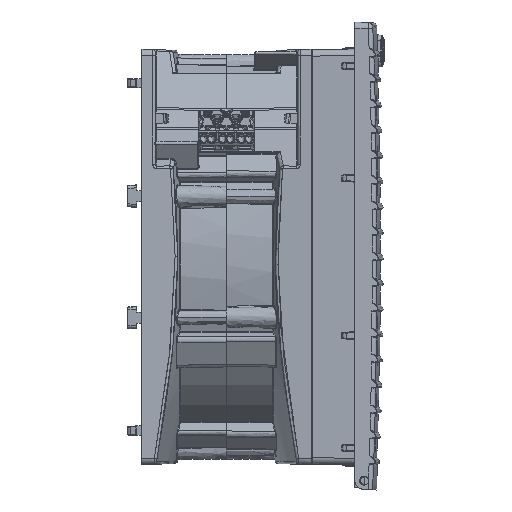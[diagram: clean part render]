
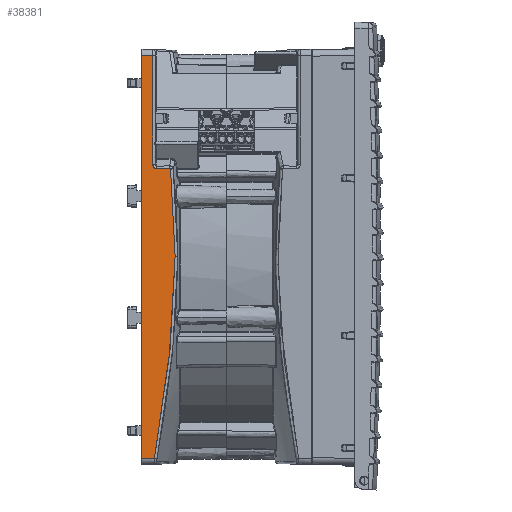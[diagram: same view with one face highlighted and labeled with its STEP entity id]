
A CAD part, left-side view. The second image highlights one B-rep face of the part: STEP entity #38381.
In plain terms, the highlighted planar face has unit normal (-0.999, -0.035, 0).
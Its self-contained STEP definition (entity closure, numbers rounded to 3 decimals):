
#38381=ADVANCED_FACE('',(#43178),#128961,.T.);
#43178=FACE_OUTER_BOUND('',#48071,.T.);
#48071=EDGE_LOOP('',(#70392,#70393,#70394,#70395,#70396,#70397,#70398,#70399,
#70400));
#70392=ORIENTED_EDGE('',*,*,#90204,.T.);
#70393=ORIENTED_EDGE('',*,*,#90205,.T.);
#70394=ORIENTED_EDGE('',*,*,#90206,.T.);
#70395=ORIENTED_EDGE('',*,*,#90207,.T.);
#70396=ORIENTED_EDGE('',*,*,#90208,.T.);
#70397=ORIENTED_EDGE('',*,*,#90209,.T.);
#70398=ORIENTED_EDGE('',*,*,#90210,.T.);
#70399=ORIENTED_EDGE('',*,*,#90211,.T.);
#70400=ORIENTED_EDGE('',*,*,#90212,.T.);
#90204=EDGE_CURVE('',#125588,#125589,#107800,.T.);
#90205=EDGE_CURVE('',#125589,#125590,#107801,.T.);
#90206=EDGE_CURVE('',#125590,#125591,#107802,.T.);
#90207=EDGE_CURVE('',#125591,#125592,#107803,.T.);
#90208=EDGE_CURVE('',#125592,#125593,#107804,.T.);
#90209=EDGE_CURVE('',#125593,#125594,#107805,.T.);
#90210=EDGE_CURVE('',#125594,#125595,#107806,.T.);
#90211=EDGE_CURVE('',#125595,#125596,#107807,.T.);
#90212=EDGE_CURVE('',#125596,#125588,#107808,.T.);
#107800=B_SPLINE_CURVE_WITH_KNOTS('',1,(#378611,#378612),.UNSPECIFIED.,
 .F.,.F.,(2,2),(-57.91,0.),.UNSPECIFIED.);
#107801=B_SPLINE_CURVE_WITH_KNOTS('',1,(#378613,#378614),.UNSPECIFIED.,
 .F.,.F.,(2,2),(0.606,6.662),.UNSPECIFIED.);
#107802=B_SPLINE_CURVE_WITH_KNOTS('',1,(#378615,#378616),.UNSPECIFIED.,
 .F.,.F.,(2,2),(-215.,0.),.UNSPECIFIED.);
#107803=B_SPLINE_CURVE_WITH_KNOTS('',1,(#378617,#378618),.UNSPECIFIED.,
 .F.,.F.,(2,2),(-6.97,0.),.UNSPECIFIED.);
#107804=B_SPLINE_CURVE_WITH_KNOTS('',5,(#378619,#378620,#378621,#378622,
#378623,#378624,#378625,#378626,#378627),.UNSPECIFIED.,.F.,.F.,(6,3,6),
(57.771,125.243,201.358),.UNSPECIFIED.);
#107805=B_SPLINE_CURVE_WITH_KNOTS('',5,(#378628,#378629,#378630,#378631,
#378632,#378633,#378634,#378635,#378636),.UNSPECIFIED.,.F.,.F.,(6,3,6),
(-201.355,-168.267,-138.127),.UNSPECIFIED.);
#107806=B_SPLINE_CURVE_WITH_KNOTS('',5,(#378637,#378638,#378639,#378640,
#378641,#378642,#378643,#378644,#378645),.UNSPECIFIED.,.F.,.F.,(6,3,6),
(-5.681,-4.423,-3.531),.UNSPECIFIED.);
#107807=B_SPLINE_CURVE_WITH_KNOTS('',1,(#378646,#378647),.UNSPECIFIED.,
 .F.,.F.,(2,2),(0.766,7.874),.UNSPECIFIED.);
#107808=B_SPLINE_CURVE_WITH_KNOTS('',5,(#378648,#378649,#378650,#378651,
#378652,#378653,#378654,#378655,#378656),.UNSPECIFIED.,.F.,.F.,(6,3,6),
(5.915,7.84,9.671),.UNSPECIFIED.);
#125588=VERTEX_POINT('',#378602);
#125589=VERTEX_POINT('',#378603);
#125590=VERTEX_POINT('',#378604);
#125591=VERTEX_POINT('',#378605);
#125592=VERTEX_POINT('',#378606);
#125593=VERTEX_POINT('',#378607);
#125594=VERTEX_POINT('',#378608);
#125595=VERTEX_POINT('',#378609);
#125596=VERTEX_POINT('',#378610);
#128961=PLANE('',#130280);
#130280=AXIS2_PLACEMENT_3D('',#378601,#131583,$);
#131583=DIRECTION('',(-0.999,-0.035,0.));
#378601=CARTESIAN_POINT('',(-111.,25.707,128.078));
#378602=CARTESIAN_POINT('',(-110.789,19.655,70.168));
#378603=CARTESIAN_POINT('',(-110.789,19.655,128.078));
#378604=CARTESIAN_POINT('',(-111.,25.707,128.078));
#378605=CARTESIAN_POINT('',(-111.,25.707,-86.922));
#378606=CARTESIAN_POINT('',(-110.757,18.742,-86.922));
#378607=CARTESIAN_POINT('',(-110.37,7.67,20.578));
#378608=CARTESIAN_POINT('',(-110.455,10.102,67.487));
#378609=CARTESIAN_POINT('',(-110.471,10.561,67.953));
#378610=CARTESIAN_POINT('',(-110.719,17.664,67.829));
#378611=CARTESIAN_POINT('',(-110.789,19.655,70.168));
#378612=CARTESIAN_POINT('',(-110.789,19.655,128.078));
#378613=CARTESIAN_POINT('',(-110.789,19.655,128.078));
#378614=CARTESIAN_POINT('',(-111.,25.707,128.078));
#378615=CARTESIAN_POINT('',(-111.,25.707,128.078));
#378616=CARTESIAN_POINT('',(-111.,25.707,-86.922));
#378617=CARTESIAN_POINT('',(-111.,25.707,-86.922));
#378618=CARTESIAN_POINT('',(-110.757,18.742,-86.922));
#378619=CARTESIAN_POINT('',(-110.757,18.742,-86.922));
#378620=CARTESIAN_POINT('',(-110.694,16.959,-76.789));
#378621=CARTESIAN_POINT('',(-110.636,15.273,-66.613));
#378622=CARTESIAN_POINT('',(-110.581,13.712,-56.391));
#378623=CARTESIAN_POINT('',(-110.478,10.756,-34.667));
#378624=CARTESIAN_POINT('',(-110.408,8.76,-13.141));
#378625=CARTESIAN_POINT('',(-110.383,8.033,-1.847));
#378626=CARTESIAN_POINT('',(-110.37,7.67,9.364));
#378627=CARTESIAN_POINT('',(-110.37,7.67,20.578));
#378628=CARTESIAN_POINT('',(-110.37,7.67,20.578));
#378629=CARTESIAN_POINT('',(-110.37,7.67,25.453));
#378630=CARTESIAN_POINT('',(-110.373,7.739,30.327));
#378631=CARTESIAN_POINT('',(-110.377,7.876,35.208));
#378632=CARTESIAN_POINT('',(-110.391,8.267,44.557));
#378633=CARTESIAN_POINT('',(-110.413,8.897,53.96));
#378634=CARTESIAN_POINT('',(-110.425,9.25,58.455));
#378635=CARTESIAN_POINT('',(-110.439,9.653,62.965));
#378636=CARTESIAN_POINT('',(-110.455,10.102,67.487));
#378637=CARTESIAN_POINT('',(-110.455,10.102,67.487));
#378638=CARTESIAN_POINT('',(-110.455,10.111,67.577));
#378639=CARTESIAN_POINT('',(-110.456,10.135,67.664));
#378640=CARTESIAN_POINT('',(-110.458,10.175,67.744));
#378641=CARTESIAN_POINT('',(-110.461,10.267,67.858));
#378642=CARTESIAN_POINT('',(-110.465,10.39,67.926));
#378643=CARTESIAN_POINT('',(-110.467,10.445,67.945));
#378644=CARTESIAN_POINT('',(-110.469,10.503,67.954));
#378645=CARTESIAN_POINT('',(-110.471,10.561,67.953));
#378646=CARTESIAN_POINT('',(-110.471,10.561,67.953));
#378647=CARTESIAN_POINT('',(-110.719,17.664,67.829));
#378648=CARTESIAN_POINT('',(-110.719,17.664,67.829));
#378649=CARTESIAN_POINT('',(-110.732,18.037,67.822));
#378650=CARTESIAN_POINT('',(-110.745,18.416,67.92));
#378651=CARTESIAN_POINT('',(-110.757,18.738,68.124));
#378652=CARTESIAN_POINT('',(-110.774,19.24,68.612));
#378653=CARTESIAN_POINT('',(-110.784,19.523,69.225));
#378654=CARTESIAN_POINT('',(-110.787,19.611,69.535));
#378655=CARTESIAN_POINT('',(-110.789,19.655,69.852));
#378656=CARTESIAN_POINT('',(-110.789,19.655,70.168));
